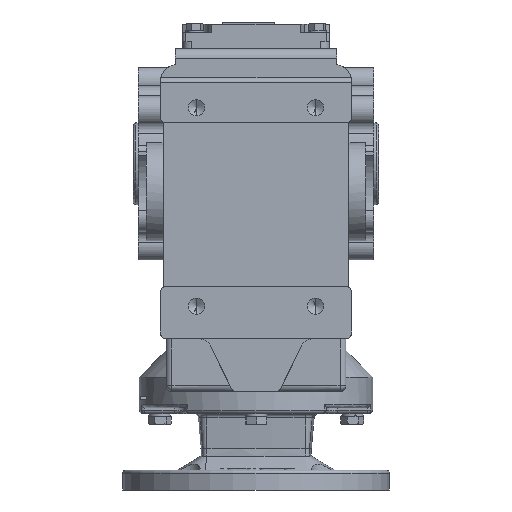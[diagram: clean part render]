
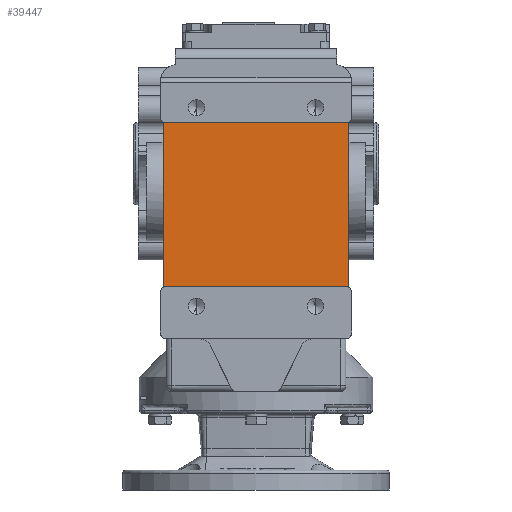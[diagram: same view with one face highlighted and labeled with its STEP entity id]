
A CAD part, front view. The second image highlights one B-rep face of the part: STEP entity #39447.
In plain terms, the highlighted planar face has unit normal (0, -1, 0).
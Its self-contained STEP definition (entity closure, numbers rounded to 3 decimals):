
#3329 = VERTEX_POINT ( 'NONE', #4576 ) ;
#3369 = VERTEX_POINT ( 'NONE', #4556 ) ;
#4135 = AXIS2_PLACEMENT_3D ( 'NONE', #38172, #38180, #38181 ) ;
#4360 = CARTESIAN_POINT ( 'NONE',  ( -79., -175., -105.417 ) ) ;
#4453 = CARTESIAN_POINT ( 'NONE',  ( -79., -175., 35.417 ) ) ;
#4556 = CARTESIAN_POINT ( 'NONE',  ( 77., -175., 35. ) ) ;
#4576 = CARTESIAN_POINT ( 'NONE',  ( 79., -175., 35.417 ) ) ;
#9591 = EDGE_LOOP ( 'NONE', ( #17332, #17331, #17330, #17329, #17328, #17327, #17326, #17325 ) ) ;
#9822 = VERTEX_POINT ( 'NONE', #4453 ) ;
#9982 = VERTEX_POINT ( 'NONE', #4360 ) ;
#10208 = VERTEX_POINT ( 'NONE', #13473 ) ;
#10240 = VERTEX_POINT ( 'NONE', #13373 ) ;
#10291 = VERTEX_POINT ( 'NONE', #13305 ) ;
#10366 = VERTEX_POINT ( 'NONE', #13201 ) ;
#13004 = DIRECTION ( 'NONE',  ( 1., 0., 0. ) ) ;
#13007 = CARTESIAN_POINT ( 'NONE',  ( -82., -175., 35. ) ) ;
#13015 = DIRECTION ( 'NONE',  ( 0., 0., -1. ) ) ;
#13016 = DIRECTION ( 'NONE',  ( 0., 1., 0. ) ) ;
#13017 = CARTESIAN_POINT ( 'NONE',  ( -77., -175., 40. ) ) ;
#13030 = DIRECTION ( 'NONE',  ( 0., 0., 1. ) ) ;
#13031 = DIRECTION ( 'NONE',  ( 0., 0., -1. ) ) ;
#13032 = DIRECTION ( 'NONE',  ( 0., 1., 0. ) ) ;
#13033 = CARTESIAN_POINT ( 'NONE',  ( -77., -175., -110. ) ) ;
#13038 = CARTESIAN_POINT ( 'NONE',  ( -79., -175., 15. ) ) ;
#13201 = CARTESIAN_POINT ( 'NONE',  ( -77., -175., -105. ) ) ;
#13305 = CARTESIAN_POINT ( 'NONE',  ( 77., -175., -105. ) ) ;
#13373 = CARTESIAN_POINT ( 'NONE',  ( 79., -175., -105.417 ) ) ;
#13473 = CARTESIAN_POINT ( 'NONE',  ( -77., -175., 35. ) ) ;
#15219 = CARTESIAN_POINT ( 'NONE',  ( -82., -175., -105. ) ) ;
#15246 = DIRECTION ( 'NONE',  ( 0., 0., -1. ) ) ;
#15593 = DIRECTION ( 'NONE',  ( -1., 0., 0. ) ) ;
#15673 = CARTESIAN_POINT ( 'NONE',  ( 77., -175., 40. ) ) ;
#15700 = DIRECTION ( 'NONE',  ( 0., 0., -1. ) ) ;
#15711 = DIRECTION ( 'NONE',  ( 0., 1., 0. ) ) ;
#15723 = CARTESIAN_POINT ( 'NONE',  ( 77., -175., -110. ) ) ;
#15724 = DIRECTION ( 'NONE',  ( 0., 0., -1. ) ) ;
#15725 = DIRECTION ( 'NONE',  ( 0., 1., 0. ) ) ;
#15739 = CARTESIAN_POINT ( 'NONE',  ( 79., -175., 15. ) ) ;
#15829 = EDGE_CURVE ( 'NONE', #9982, #10366, #21007, .T. ) ;
#15831 = EDGE_CURVE ( 'NONE', #9982, #9822, #21018, .T. ) ;
#15835 = EDGE_CURVE ( 'NONE', #10208, #9822, #21025, .T. ) ;
#15839 = EDGE_CURVE ( 'NONE', #10208, #3369, #21032, .T. ) ;
#15969 = EDGE_CURVE ( 'NONE', #10291, #10366, #21205, .T. ) ;
#16065 = EDGE_CURVE ( 'NONE', #3329, #10240, #21353, .T. ) ;
#16067 = EDGE_CURVE ( 'NONE', #3329, #3369, #21356, .T. ) ;
#16068 = EDGE_CURVE ( 'NONE', #10291, #10240, #21358, .T. ) ;
#17325 = ORIENTED_EDGE ( 'NONE', *, *, #16068, .T. ) ;
#17326 = ORIENTED_EDGE ( 'NONE', *, *, #15969, .F. ) ;
#17327 = ORIENTED_EDGE ( 'NONE', *, *, #15829, .T. ) ;
#17328 = ORIENTED_EDGE ( 'NONE', *, *, #15831, .F. ) ;
#17329 = ORIENTED_EDGE ( 'NONE', *, *, #15835, .T. ) ;
#17330 = ORIENTED_EDGE ( 'NONE', *, *, #15839, .F. ) ;
#17331 = ORIENTED_EDGE ( 'NONE', *, *, #16067, .T. ) ;
#17332 = ORIENTED_EDGE ( 'NONE', *, *, #16065, .F. ) ;
#19412 = AXIS2_PLACEMENT_3D ( 'NONE', #15723, #15711, #15246 ) ;
#19413 = AXIS2_PLACEMENT_3D ( 'NONE', #15673, #15725, #15724 ) ;
#19483 = AXIS2_PLACEMENT_3D ( 'NONE', #13017, #13016, #13015 ) ;
#19485 = AXIS2_PLACEMENT_3D ( 'NONE', #13033, #13032, #13031 ) ;
#21007 = CIRCLE ( 'NONE', #19485, 5. ) ;
#21018 = LINE ( 'NONE', #13038, #21022 ) ;
#21022 = VECTOR ( 'NONE', #13030, 1000. ) ;
#21025 = CIRCLE ( 'NONE', #19483, 5. ) ;
#21032 = LINE ( 'NONE', #13007, #21035 ) ;
#21035 = VECTOR ( 'NONE', #13004, 1000. ) ;
#21205 = LINE ( 'NONE', #15219, #21208 ) ;
#21208 = VECTOR ( 'NONE', #15593, 1000. ) ;
#21353 = LINE ( 'NONE', #15739, #21355 ) ;
#21355 = VECTOR ( 'NONE', #15700, 1000. ) ;
#21356 = CIRCLE ( 'NONE', #19413, 5. ) ;
#21358 = CIRCLE ( 'NONE', #19412, 5. ) ;
#28530 = FACE_OUTER_BOUND ( 'NONE', #9591, .T. ) ;
#38172 = CARTESIAN_POINT ( 'NONE',  ( -100., -175., 15. ) ) ;
#38177 = PLANE ( 'NONE',  #4135 ) ;
#38180 = DIRECTION ( 'NONE',  ( 0., -1., 0. ) ) ;
#38181 = DIRECTION ( 'NONE',  ( 0., 0., -1. ) ) ;
#39447 = ADVANCED_FACE ( 'NONE', ( #28530 ), #38177, .T. ) ;
